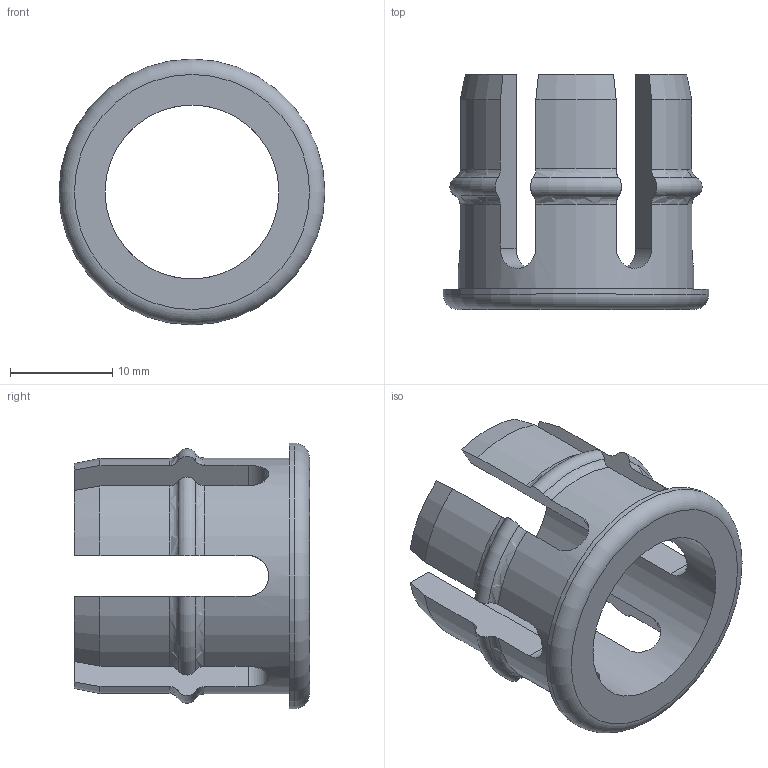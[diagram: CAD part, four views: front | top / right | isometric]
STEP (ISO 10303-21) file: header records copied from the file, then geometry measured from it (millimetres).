
FILE_DESCRIPTION(/* description */ (''),/* implementation_level */ '2;1');
FILE_NAME(/* name */ 'OTB Sleeve 17.step',/* time_stamp */ '2026-09-23T15:59:10+03:00',/* author */ (''),/* organization */ (''),/* preprocessor_version */ 'ST-DEVELOPER v20.2',/* originating_system */ 'Autodesk Translation Framework v15.15.0.0',/* authorisation */ '');
FILE_SCHEMA (('AUTOMOTIVE_DESIGN { 1 0 10303 214 3 1 1 }'));
Length unit declared in the file: millimetre
Products named in the file (1): 2026-09-20-08-47-05-558
Bounding box: 26 x 23 x 26 mm (x, y, z)
Volume: 3249.7 mm3; surface area: 3270.1 mm2
Topology: 1 solids, 1 shells, 60 faces, 174 edges, 116 vertices
Faces by surface type: plane 20, torus 19, cylinder 15, cone 6
Full cylindrical faces by diameter (mm): 17 x1, 23.04 x1, 26 x1
Entity records: 2454 total; most frequent: CARTESIAN_POINT 917, ORIENTED_EDGE 348, DIRECTION 283, EDGE_CURVE 174, VERTEX_POINT 116, AXIS2_PLACEMENT_3D 110, LINE 63, VECTOR 63
